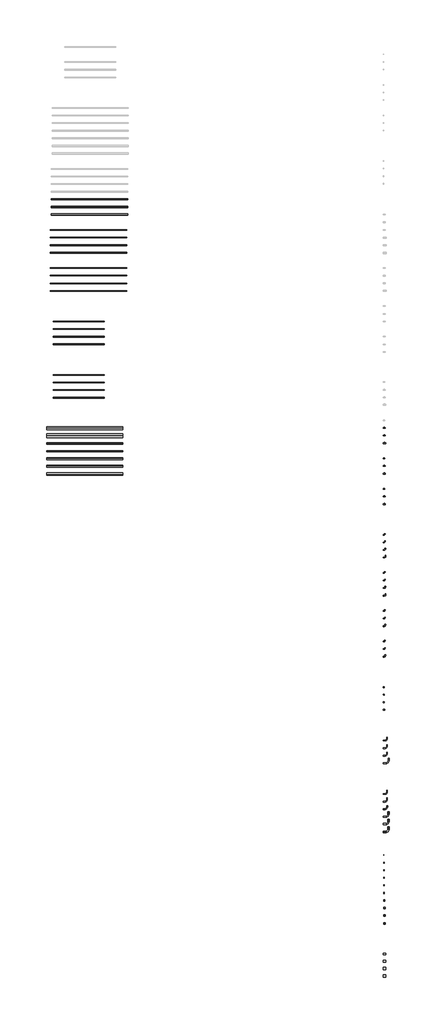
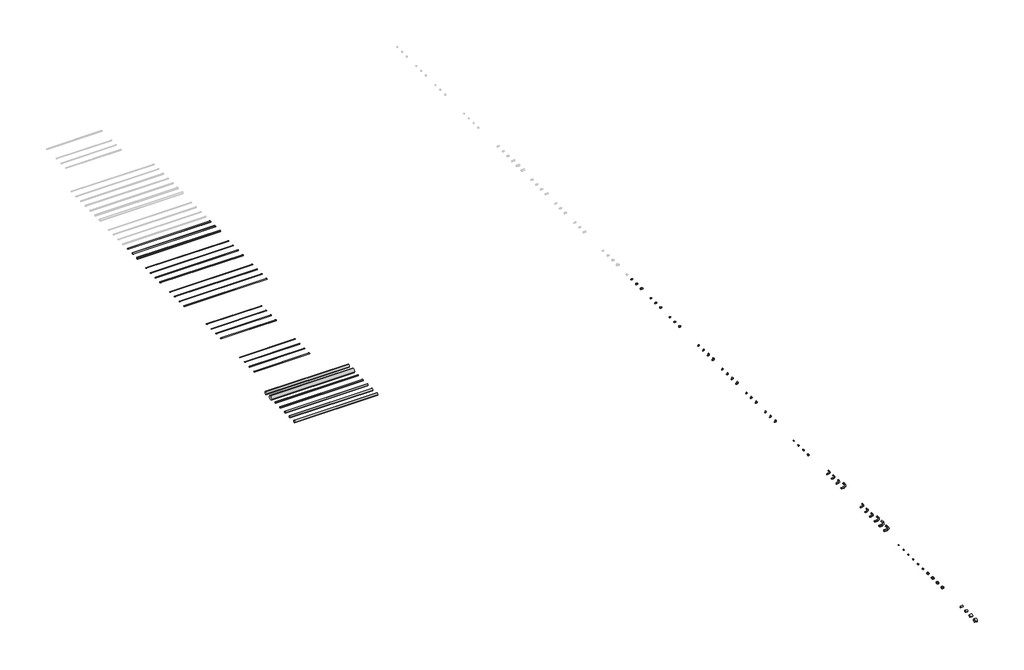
# One storey, part 1 of 3: 51 cable carrier fittings, 26 cable carrier segments.
"""IFC4 building model written with IfcOpenShell, lengths in millimetres."""

from ifc_helpers import new_model, si_unit, point, frame, frame_2d, origin, place, context, project, spatial, circle_curve, trimmed, segment, composite_curve, outline, extrude, transform, mapped, element, save
from components import cable_carrier_fitting_152d4620, cable_carrier_fitting_43ac811c, cable_carrier_fitting_233ad362, cable_carrier_fitting_8a820bfa, cable_carrier_fitting_c9a27e83, cable_carrier_fitting_fce20a62, cable_carrier_fitting_09f9ef3d, cable_carrier_fitting_bbf9297c, cable_carrier_fitting_d21bb2d3, cable_carrier_fitting_9c39eff4, cable_carrier_fitting_4913733f, cable_carrier_fitting_de78d5c7, cable_carrier_fitting_3510dfeb, cable_carrier_fitting_49e6a4dd, cable_carrier_fitting_fd7b985e, cable_carrier_fitting_b6f59f73, cable_carrier_fitting_10f0f2cf, cable_carrier_fitting_4611c645, cable_carrier_fitting_899d4dfe, cable_carrier_fitting_d38100db, cable_carrier_fitting_a519feb8, cable_carrier_fitting_39f01935, cable_carrier_fitting_a0507180, cable_carrier_fitting_edccf83d, cable_carrier_fitting_ab0baff4, cable_carrier_fitting_d0a69e32, cable_carrier_fitting_5630c3e8, cable_carrier_fitting_edf6a9a2, cable_carrier_fitting_8629ba99, cable_carrier_fitting_efb1d8cd, cable_carrier_fitting_1f9cecab, cable_carrier_fitting_2938c938, cable_carrier_fitting_cf892bee, cable_carrier_fitting_da104670, cable_carrier_fitting_de8c5855, cable_carrier_fitting_cd123b29

model = new_model("IFC4")

# Units and contexts
model_context = context("Model", 3, world=origin())
ifc_project = project(units=[si_unit("LENGTHUNIT", "METRE", prefix="MILLI")], contexts=[model_context])

# Site, building, storey
site = spatial("IfcSite", under=ifc_project)
building = spatial("IfcBuilding", under=site)
storey = spatial("IfcBuildingStorey", under=building, Name="Уровень 2", Elevation=4000.0)

# Cable carrier fittings
placement = place(None, origin())
cable_carrier_fitting_shape = cable_carrier_fitting_152d4620(model_context)
element("IfcCableCarrierFitting", 1, ObjectType="Тройник_соед._для_трубы : Тройник соед. для трубы 20мм (5шт) серый", at=placement, inside=storey, context=model_context, shape_type="MappedRepresentation", body=[
    mapped(cable_carrier_fitting_shape, transform((27320.1376507, -9169.340431, 4000.0), x_axis=(1.0, 0.0, 0.0), y_axis=(0.0, 1.0, 0.0), z_axis=(0.0, 0.0, 1.0))),
])
cable_carrier_fitting_2_shape = cable_carrier_fitting_43ac811c(model_context)
element("IfcCableCarrierFitting", 2, ObjectType="Тройник_соед._для_трубы : Тройник соед. для трубы 25мм (5шт) серый", at=placement, inside=storey, context=model_context, shape_type="MappedRepresentation", body=[
    mapped(cable_carrier_fitting_2_shape, transform((27325.1376507, -9466.840431, 4000.0), x_axis=(1.0, 0.0, 0.0), y_axis=(0.0, 1.0, 0.0), z_axis=(0.0, 0.0, 1.0))),
])
cable_carrier_fitting_3_shape = cable_carrier_fitting_233ad362(model_context)
element("IfcCableCarrierFitting", 3, ObjectType="Тройник_соед._для_трубы : Тройник соед. для трубы 32мм (5шт) серый", at=placement, inside=storey, context=model_context, shape_type="MappedRepresentation", body=[
    mapped(cable_carrier_fitting_3_shape, transform((27330.1376507, -9762.840431, 4000.0), x_axis=(1.0, 0.0, 0.0), y_axis=(0.0, 1.0, 0.0), z_axis=(0.0, 0.0, 1.0))),
])
cable_carrier_fitting_4_shape = cable_carrier_fitting_8a820bfa(model_context)
element("IfcCableCarrierFitting", 4, ObjectType="Тройник_соед._для_трубы : Тройник соед. для трубы 16мм (5шт) белый", at=placement, inside=storey, context=model_context, shape_type="MappedRepresentation", body=[
    mapped(cable_carrier_fitting_4_shape, transform((27315.1376507, -11570.340431, 4000.0), x_axis=(1.0, 0.0, 0.0), y_axis=(0.0, 1.0, 0.0), z_axis=(0.0, 0.0, 1.0))),
])
element("IfcCableCarrierFitting", 5, ObjectType="Тройник_соед._для_трубы : Тройник соед. для трубы 20мм (5шт) белый", at=placement, inside=storey, context=model_context, shape_type="MappedRepresentation", body=[
    mapped(cable_carrier_fitting_shape, transform((27320.1376507, -11869.340431, 4000.0), x_axis=(1.0, 0.0, 0.0), y_axis=(0.0, 1.0, 0.0), z_axis=(0.0, 0.0, 1.0))),
])
element("IfcCableCarrierFitting", 6, ObjectType="Тройник_соед._для_трубы : Тройник соед. для трубы 25мм (5шт) белый", at=placement, inside=storey, context=model_context, shape_type="MappedRepresentation", body=[
    mapped(cable_carrier_fitting_2_shape, transform((27325.1376507, -12166.840431, 4000.0), x_axis=(1.0, 0.0, 0.0), y_axis=(0.0, 1.0, 0.0), z_axis=(0.0, 0.0, 1.0))),
])
element("IfcCableCarrierFitting", 7, ObjectType="Тройник_соед._для_трубы : Тройник соед. для трубы 16 мм (5шт) сосна", at=placement, inside=storey, context=model_context, shape_type="MappedRepresentation", body=[
    mapped(cable_carrier_fitting_4_shape, transform((27315.1376507, -10370.340431, 4000.0), x_axis=(1.0, 0.0, 0.0), y_axis=(0.0, 1.0, 0.0), z_axis=(0.0, 0.0, 1.0))),
])
element("IfcCableCarrierFitting", 8, ObjectType="Тройник_соед._для_трубы : Тройник соед. для трубы 20 мм (5шт) сосна", at=placement, inside=storey, context=model_context, shape_type="MappedRepresentation", body=[
    mapped(cable_carrier_fitting_shape, transform((27320.1376507, -10669.340431, 4000.0), x_axis=(1.0, 0.0, 0.0), y_axis=(0.0, 1.0, 0.0), z_axis=(0.0, 0.0, 1.0))),
])
element("IfcCableCarrierFitting", 9, ObjectType="Тройник_соед._для_трубы : Тройник соед. для трубы 25мм (5шт) сосна", at=placement, inside=storey, context=model_context, shape_type="MappedRepresentation", body=[
    mapped(cable_carrier_fitting_2_shape, transform((27325.1376507, -10966.840431, 4000.0), x_axis=(1.0, 0.0, 0.0), y_axis=(0.0, 1.0, 0.0), z_axis=(0.0, 0.0, 1.0))),
])
cable_carrier_fitting_5_shape = cable_carrier_fitting_c9a27e83(model_context)
element("IfcCableCarrierFitting", 10, ObjectType="Угол_90_соед._для_труб : Угол 90 соед. для трубы 16мм (50шт) серый", at=placement, inside=storey, context=model_context, shape_type="MappedRepresentation", body=[
    mapped(cable_carrier_fitting_5_shape, transform((27340.1376507, -13370.340431, 4000.0), x_axis=(1.0, 0.0, 0.0), y_axis=(0.0, 1.0, 0.0), z_axis=(0.0, 0.0, 1.0))),
])
cable_carrier_fitting_6_shape = cable_carrier_fitting_fce20a62(model_context)
element("IfcCableCarrierFitting", 11, ObjectType="Угол_90_соед._для_труб : Угол 90 соед. для трубы 20мм (50шт) серый", at=placement, inside=storey, context=model_context, shape_type="MappedRepresentation", body=[
    mapped(cable_carrier_fitting_6_shape, transform((27350.1376507, -13669.340431, 4000.0), x_axis=(1.0, 0.0, 0.0), y_axis=(0.0, 1.0, 0.0), z_axis=(0.0, 0.0, 1.0))),
])
cable_carrier_fitting_7_shape = cable_carrier_fitting_09f9ef3d(model_context)
element("IfcCableCarrierFitting", 12, ObjectType="Угол_90_соед._для_труб : Угол 90 соед. для трубы 25мм (25шт) серый", at=placement, inside=storey, context=model_context, shape_type="MappedRepresentation", body=[
    mapped(cable_carrier_fitting_7_shape, transform((27360.1376507, -13966.840431, 4000.0), x_axis=(1.0, 0.0, 0.0), y_axis=(0.0, 1.0, 0.0), z_axis=(0.0, 0.0, 1.0))),
])
cable_carrier_fitting_8_shape = cable_carrier_fitting_bbf9297c(model_context)
element("IfcCableCarrierFitting", 13, ObjectType="Угол_90_соед._для_труб : Угол 90 соед. для трубы 32мм (15шт) серый", at=placement, inside=storey, context=model_context, shape_type="MappedRepresentation", body=[
    mapped(cable_carrier_fitting_8_shape, transform((27370.1376507, -14262.840431, 4000.0), x_axis=(1.0, 0.0, 0.0), y_axis=(0.0, 1.0, 0.0), z_axis=(0.0, 0.0, 1.0))),
])
element("IfcCableCarrierFitting", 14, ObjectType="Угол_90_соед._для_труб : Угол 90 соед. для трубы 16мм (5шт) серый", at=placement, inside=storey, context=model_context, shape_type="MappedRepresentation", body=[
    mapped(cable_carrier_fitting_5_shape, transform((27340.1376507, -14870.340431, 4000.0), x_axis=(1.0, 0.0, 0.0), y_axis=(0.0, 1.0, 0.0), z_axis=(0.0, 0.0, 1.0))),
])
element("IfcCableCarrierFitting", 15, ObjectType="Угол_90_соед._для_труб : Угол 90 соед. для трубы 20мм (5шт) серый", at=placement, inside=storey, context=model_context, shape_type="MappedRepresentation", body=[
    mapped(cable_carrier_fitting_6_shape, transform((27350.1376507, -15169.340431, 4000.0), x_axis=(1.0, 0.0, 0.0), y_axis=(0.0, 1.0, 0.0), z_axis=(0.0, 0.0, 1.0))),
])
element("IfcCableCarrierFitting", 16, ObjectType="Угол_90_соед._для_труб : Угол 90 соед. для трубы 25мм (5шт) серый", at=placement, inside=storey, context=model_context, shape_type="MappedRepresentation", body=[
    mapped(cable_carrier_fitting_7_shape, transform((27360.1376507, -15466.840431, 4000.0), x_axis=(1.0, 0.0, 0.0), y_axis=(0.0, 1.0, 0.0), z_axis=(0.0, 0.0, 1.0))),
])
element("IfcCableCarrierFitting", 17, ObjectType="Угол_90_соед._для_труб : Угол 90 соед. для трубы 32мм (5шт) серый", at=placement, inside=storey, context=model_context, shape_type="MappedRepresentation", body=[
    mapped(cable_carrier_fitting_8_shape, transform((27370.1376507, -15762.840431, 4000.0), x_axis=(1.0, 0.0, 0.0), y_axis=(0.0, 1.0, 0.0), z_axis=(0.0, 0.0, 1.0))),
])
element("IfcCableCarrierFitting", 18, ObjectType="Угол_90_соед._для_труб : Угол 90 соед. для трубы 16мм (5шт) сосна", at=placement, inside=storey, context=model_context, shape_type="MappedRepresentation", body=[
    mapped(cable_carrier_fitting_5_shape, transform((27340.1376507, -16370.340431, 4000.0), x_axis=(1.0, 0.0, 0.0), y_axis=(0.0, 1.0, 0.0), z_axis=(0.0, 0.0, 1.0))),
])
element("IfcCableCarrierFitting", 19, ObjectType="Угол_90_соед._для_труб : Угол 90 соед. для трубы 20мм (5шт) сосна", at=placement, inside=storey, context=model_context, shape_type="MappedRepresentation", body=[
    mapped(cable_carrier_fitting_6_shape, transform((27350.1376507, -16669.340431, 4000.0), x_axis=(1.0, 0.0, 0.0), y_axis=(0.0, 1.0, 0.0), z_axis=(0.0, 0.0, 1.0))),
])
element("IfcCableCarrierFitting", 20, ObjectType="Угол_90_соед._для_труб : Угол 90 соед. для трубы 25мм (5шт) сосна", at=placement, inside=storey, context=model_context, shape_type="MappedRepresentation", body=[
    mapped(cable_carrier_fitting_7_shape, transform((27360.1376507, -16966.840431, 4000.0), x_axis=(1.0, 0.0, 0.0), y_axis=(0.0, 1.0, 0.0), z_axis=(0.0, 0.0, 1.0))),
])
element("IfcCableCarrierFitting", 21, ObjectType="Угол_90_соед._для_труб : Угол 90 соед. для трубы 16мм (5шт) белый", at=placement, inside=storey, context=model_context, shape_type="MappedRepresentation", body=[
    mapped(cable_carrier_fitting_5_shape, transform((27340.1376507, -17570.340431, 4000.0), x_axis=(1.0, 0.0, 0.0), y_axis=(0.0, 1.0, 0.0), z_axis=(0.0, 0.0, 1.0))),
])
element("IfcCableCarrierFitting", 22, ObjectType="Угол_90_соед._для_труб : Угол 90 соед. для трубы 20мм (5шт) белый", at=placement, inside=storey, context=model_context, shape_type="MappedRepresentation", body=[
    mapped(cable_carrier_fitting_6_shape, transform((27350.1376507, -17869.340431, 4000.0), x_axis=(1.0, 0.0, 0.0), y_axis=(0.0, 1.0, 0.0), z_axis=(0.0, 0.0, 1.0))),
])
element("IfcCableCarrierFitting", 23, ObjectType="Угол_90_соед._для_труб : Угол 90 соед. для трубы 25мм (5шт) белый", at=placement, inside=storey, context=model_context, shape_type="MappedRepresentation", body=[
    mapped(cable_carrier_fitting_7_shape, transform((27360.1376507, -18166.840431, 4000.0), x_axis=(1.0, 0.0, 0.0), y_axis=(0.0, 1.0, 0.0), z_axis=(0.0, 0.0, 1.0))),
])
cable_carrier_fitting_9_shape = cable_carrier_fitting_d21bb2d3(model_context)
element("IfcCableCarrierFitting", 24, ObjectType="Муфта_гибкая_труба-труба_IP44 : Муфта гибкая труба-труба D16мм", at=placement, inside=storey, context=model_context, shape_type="MappedRepresentation", body=[
    mapped(cable_carrier_fitting_9_shape, transform((27430.1376507, -23564.340431, 4000.0), x_axis=(1.0, 0.0, 0.0), y_axis=(0.0, 1.0, 0.0), z_axis=(0.0, 0.0, 1.0))),
])
cable_carrier_fitting_10_shape = cable_carrier_fitting_9c39eff4(model_context)
element("IfcCableCarrierFitting", 25, ObjectType="Муфта_гибкая_труба-труба_IP44 : Муфта гибкая труба-труба D20мм", at=placement, inside=storey, context=model_context, shape_type="MappedRepresentation", body=[
    mapped(cable_carrier_fitting_10_shape, transform((27430.1376507, -23862.340431, 4000.0), x_axis=(1.0, 0.0, 0.0), y_axis=(0.0, 1.0, 0.0), z_axis=(0.0, 0.0, 1.0))),
])
cable_carrier_fitting_11_shape = cable_carrier_fitting_4913733f(model_context)
element("IfcCableCarrierFitting", 26, ObjectType="Муфта_гибкая_труба-труба_IP44 : Муфта гибкая труба-труба D25мм", at=placement, inside=storey, context=model_context, shape_type="MappedRepresentation", body=[
    mapped(cable_carrier_fitting_11_shape, transform((27430.1376507, -24159.840431, 4000.0), x_axis=(1.0, 0.0, 0.0), y_axis=(0.0, 1.0, 0.0), z_axis=(0.0, 0.0, 1.0))),
])
cable_carrier_fitting_12_shape = cable_carrier_fitting_de78d5c7(model_context)
element("IfcCableCarrierFitting", 27, ObjectType="Муфта_гибкая_труба-труба_IP44 : Муфта гибкая труба-труба D32мм", at=placement, inside=storey, context=model_context, shape_type="MappedRepresentation", body=[
    mapped(cable_carrier_fitting_12_shape, transform((27490.1376507, -24461.840431, 4000.0), x_axis=(1.0, 0.0, 0.0), y_axis=(0.0, 1.0, 0.0), z_axis=(0.0, 0.0, 1.0))),
])
cable_carrier_fitting_13_shape = cable_carrier_fitting_3510dfeb(model_context)
element("IfcCableCarrierFitting", 28, ObjectType="Муфта_гибкая_труба-труба_IP44 : Муфта гибкая труба-труба D40мм", at=placement, inside=storey, context=model_context, shape_type="MappedRepresentation", body=[
    mapped(cable_carrier_fitting_13_shape, transform((27490.1376507, -24752.340431, 4000.0), x_axis=(1.0, 0.0, 0.0), y_axis=(0.0, 1.0, 0.0), z_axis=(0.0, 0.0, 1.0))),
])
cable_carrier_fitting_14_shape = cable_carrier_fitting_49e6a4dd(model_context)
element("IfcCableCarrierFitting", 29, ObjectType="Муфта_гибкая_труба-труба_IP44 : Муфта гибкая труба-труба D50мм", at=placement, inside=storey, context=model_context, shape_type="MappedRepresentation", body=[
    mapped(cable_carrier_fitting_14_shape, transform((27490.1376507, -25053.340431, 4000.0), x_axis=(1.0, 0.0, 0.0), y_axis=(0.0, 1.0, 0.0), z_axis=(0.0, 0.0, 1.0))),
])
cable_carrier_fitting_15_shape = cable_carrier_fitting_fd7b985e(model_context)
element("IfcCableCarrierFitting", 30, ObjectType="Муфта_вводная_для_гофротрубы : Муфта вводная для гофротрубы 32мм", at=placement, inside=storey, context=model_context, shape_type="MappedRepresentation", body=[
    mapped(cable_carrier_fitting_15_shape, transform((27311.0471371, -20230.340431, 4000.0), x_axis=(1.0, 0.0, 0.0), y_axis=(0.0, 1.0, 0.0), z_axis=(0.0, 0.0, 1.0))),
])
cable_carrier_fitting_16_shape = cable_carrier_fitting_b6f59f73(model_context)
element("IfcCableCarrierFitting", 31, ObjectType="Муфта_вводная_для_гофротрубы : Муфта вводная для гофротрубы 25мм", at=placement, inside=storey, context=model_context, shape_type="MappedRepresentation", body=[
    mapped(cable_carrier_fitting_16_shape, transform((27307.5471371, -19933.340431, 4000.0), x_axis=(1.0, 0.0, 0.0), y_axis=(0.0, 1.0, 0.0), z_axis=(0.0, 0.0, 1.0))),
])
cable_carrier_fitting_17_shape = cable_carrier_fitting_10f0f2cf(model_context)
element("IfcCableCarrierFitting", 32, ObjectType="Муфта_вводная_для_гофротрубы : Муфта вводная для гофротрубы 20мм", at=placement, inside=storey, context=model_context, shape_type="MappedRepresentation", body=[
    mapped(cable_carrier_fitting_17_shape, transform((27305.0471371, -19634.340431, 4000.0), x_axis=(1.0, 0.0, 0.0), y_axis=(0.0, 1.0, 0.0), z_axis=(0.0, 0.0, 1.0))),
])
cable_carrier_fitting_18_shape = cable_carrier_fitting_4611c645(model_context)
element("IfcCableCarrierFitting", 33, ObjectType="Муфта_вводная_для_гофротрубы : Муфта вводная для гофротрубы 16мм", at=placement, inside=storey, context=model_context, shape_type="MappedRepresentation", body=[
    mapped(cable_carrier_fitting_18_shape, transform((27302.5471371, -19340.340431, 4000.0), x_axis=(1.0, 0.0, 0.0), y_axis=(0.0, 1.0, 0.0), z_axis=(0.0, 0.0, 1.0))),
])
cable_carrier_fitting_19_shape = cable_carrier_fitting_899d4dfe(model_context)
element("IfcCableCarrierFitting", 34, ObjectType="Сальник_PGL_D_11-48_IP54 : Сальник PG 11 диаметр проводника 5-10мм IP54", at=placement, inside=storey, context=model_context, shape_type="MappedRepresentation", body=[
    mapped(cable_carrier_fitting_19_shape, transform((27302.5471371, -26546.340431, 4000.0), x_axis=(1.0, 0.0, 0.0), y_axis=(0.0, 1.0, 0.0), z_axis=(0.0, 0.0, 1.0))),
])
cable_carrier_fitting_20_shape = cable_carrier_fitting_d38100db(model_context)
element("IfcCableCarrierFitting", 35, ObjectType="Сальник_PGL_D_11-48_IP54 : Сальник PG 13,5 диаметр проводника 7-11мм IP54", at=placement, inside=storey, context=model_context, shape_type="MappedRepresentation", body=[
    mapped(cable_carrier_fitting_20_shape, transform((27304.5471371, -26845.340431, 4000.0), x_axis=(1.0, 0.0, 0.0), y_axis=(0.0, 1.0, 0.0), z_axis=(0.0, 0.0, 1.0))),
])
cable_carrier_fitting_21_shape = cable_carrier_fitting_a519feb8(model_context)
element("IfcCableCarrierFitting", 36, ObjectType="Сальник_PGL_D_11-48_IP54 : Сальник PG 16 диаметр проводника 10-14мм IP54", at=placement, inside=storey, context=model_context, shape_type="MappedRepresentation", body=[
    mapped(cable_carrier_fitting_21_shape, transform((27305.5471371, -27140.340431, 4000.0), x_axis=(1.0, 0.0, 0.0), y_axis=(0.0, 1.0, 0.0), z_axis=(0.0, 0.0, 1.0))),
])
cable_carrier_fitting_22_shape = cable_carrier_fitting_39f01935(model_context)
element("IfcCableCarrierFitting", 37, ObjectType="Сальник_PGL_D_11-48_IP54 : Сальник PG 21 диаметр проводника 13-18мм IP54", at=placement, inside=storey, context=model_context, shape_type="MappedRepresentation", body=[
    mapped(cable_carrier_fitting_22_shape, transform((27308.5471371, -27435.340431, 4000.0), x_axis=(1.0, 0.0, 0.0), y_axis=(0.0, 1.0, 0.0), z_axis=(0.0, 0.0, 1.0))),
])
cable_carrier_fitting_23_shape = cable_carrier_fitting_a0507180(model_context)
element("IfcCableCarrierFitting", 38, ObjectType="Сальник_PGL_D_11-48_IP54 : Сальник PG 29 диаметр проводника 18-25мм IP54", at=placement, inside=storey, context=model_context, shape_type="MappedRepresentation", body=[
    mapped(cable_carrier_fitting_23_shape, transform((27320.5471371, -27724.340431, 4000.0), x_axis=(1.0, 0.0, 0.0), y_axis=(0.0, 1.0, 0.0), z_axis=(0.0, 0.0, 1.0))),
])
cable_carrier_fitting_24_shape = cable_carrier_fitting_edccf83d(model_context)
element("IfcCableCarrierFitting", 39, ObjectType="Сальник_PGL_D_11-48_IP54 : Сальник PG 36 диаметр проводника 22-32мм IP54", at=placement, inside=storey, context=model_context, shape_type="MappedRepresentation", body=[
    mapped(cable_carrier_fitting_24_shape, transform((27323.5471371, -28017.340431, 4000.0), x_axis=(1.0, 0.0, 0.0), y_axis=(0.0, 1.0, 0.0), z_axis=(0.0, 0.0, 1.0))),
])
cable_carrier_fitting_25_shape = cable_carrier_fitting_ab0baff4(model_context)
element("IfcCableCarrierFitting", 40, ObjectType="Сальник_PGL_D_11-48_IP54 : Сальник PG 42 диаметр проводника 32-38мм IP54", at=placement, inside=storey, context=model_context, shape_type="MappedRepresentation", body=[
    mapped(cable_carrier_fitting_25_shape, transform((27324.5471371, -28317.340431, 4000.0), x_axis=(1.0, 0.0, 0.0), y_axis=(0.0, 1.0, 0.0), z_axis=(0.0, 0.0, 1.0))),
])
cable_carrier_fitting_26_shape = cable_carrier_fitting_d0a69e32(model_context)
element("IfcCableCarrierFitting", 41, ObjectType="Сальник_PGL_D_11-48_IP54 : Сальник PG 48 диаметр проводника 39-43мм IP54", at=placement, inside=storey, context=model_context, shape_type="MappedRepresentation", body=[
    mapped(cable_carrier_fitting_26_shape, transform((27324.5471371, -28620.2385747, 4000.0), x_axis=(1.0, 0.0, 0.0), y_axis=(0.0, 1.0, 0.0), z_axis=(0.0, 0.0, 1.0))),
])
cable_carrier_fitting_27_shape = cable_carrier_fitting_5630c3e8(model_context)
element("IfcCableCarrierFitting", 42, ObjectType="Сальник_PGL_D_11-48_IP54 : Сальник PG 7 диаметр проводника 3,5-6мм IP54", at=placement, inside=storey, context=model_context, shape_type="MappedRepresentation", body=[
    mapped(cable_carrier_fitting_27_shape, transform((27302.5471371, -25946.340431, 4000.0), x_axis=(1.0, 0.0, 0.0), y_axis=(0.0, 1.0, 0.0), z_axis=(0.0, 0.0, 1.0))),
])
cable_carrier_fitting_28_shape = cable_carrier_fitting_edf6a9a2(model_context)
element("IfcCableCarrierFitting", 43, ObjectType="Сальник_PGL_D_11-48_IP54 : Сальник PG 9 диаметр проводника 4-8мм IP54", at=placement, inside=storey, context=model_context, shape_type="MappedRepresentation", body=[
    mapped(cable_carrier_fitting_28_shape, transform((27302.5471371, -26246.340431, 4000.0), x_axis=(1.0, 0.0, 0.0), y_axis=(0.0, 1.0, 0.0), z_axis=(0.0, 0.0, 1.0))),
])
cable_carrier_fitting_29_shape = cable_carrier_fitting_8629ba99(model_context)
element("IfcCableCarrierFitting", 44, ObjectType="Муфта_гибкая_труба-коробка_IP44 : Муфта гибкая труба-коробка D16мм", at=placement, inside=storey, context=model_context, shape_type="MappedRepresentation", body=[
    mapped(cable_carrier_fitting_29_shape, transform((27430.1376507, -21464.340431, 4000.0), x_axis=(1.0, 0.0, 0.0), y_axis=(0.0, 1.0, 0.0), z_axis=(0.0, 0.0, 1.0))),
])
cable_carrier_fitting_30_shape = cable_carrier_fitting_efb1d8cd(model_context)
element("IfcCableCarrierFitting", 45, ObjectType="Муфта_гибкая_труба-коробка_IP44 : Муфта гибкая труба-коробка D20мм", at=placement, inside=storey, context=model_context, shape_type="MappedRepresentation", body=[
    mapped(cable_carrier_fitting_30_shape, transform((27430.1376507, -21762.340431, 4000.0), x_axis=(1.0, 0.0, 0.0), y_axis=(0.0, 1.0, 0.0), z_axis=(0.0, 0.0, 1.0))),
])
cable_carrier_fitting_31_shape = cable_carrier_fitting_1f9cecab(model_context)
element("IfcCableCarrierFitting", 46, ObjectType="Муфта_гибкая_труба-коробка_IP44 : Муфта гибкая труба-коробка D25мм", at=placement, inside=storey, context=model_context, shape_type="MappedRepresentation", body=[
    mapped(cable_carrier_fitting_31_shape, transform((27430.1376507, -22059.840431, 4000.0), x_axis=(1.0, 0.0, 0.0), y_axis=(0.0, 1.0, 0.0), z_axis=(0.0, 0.0, 1.0))),
])
cable_carrier_fitting_32_shape = cable_carrier_fitting_2938c938(model_context)
element("IfcCableCarrierFitting", 47, ObjectType="Муфта_гибкая_труба-коробка_IP44 : Муфта гибкая труба-коробка D32мм", at=placement, inside=storey, context=model_context, shape_type="MappedRepresentation", body=[
    mapped(cable_carrier_fitting_32_shape, transform((27490.1376507, -22356.340431, 4000.0), x_axis=(1.0, 0.0, 0.0), y_axis=(0.0, 1.0, 0.0), z_axis=(0.0, 0.0, 1.0))),
])
cable_carrier_fitting_33_shape = cable_carrier_fitting_cf892bee(model_context)
element("IfcCableCarrierFitting", 48, ObjectType="Муфта_соединительная_для_двустенной_трубы : Муфта соединительная для двухстенной трубы D50мм", at=placement, inside=storey, context=model_context, shape_type="MappedRepresentation", body=[
    mapped(cable_carrier_fitting_33_shape, transform((27330.1376507, -29853.340431, 4000.0), x_axis=(1.0, 0.0, 0.0), y_axis=(0.0, 1.0, 0.0), z_axis=(0.0, 0.0, 1.0))),
])
cable_carrier_fitting_34_shape = cable_carrier_fitting_da104670(model_context)
element("IfcCableCarrierFitting", 49, ObjectType="Муфта_соединительная_для_двустенной_трубы : Муфта соединительная для двухстенной трубы D63мм", at=placement, inside=storey, context=model_context, shape_type="MappedRepresentation", body=[
    mapped(cable_carrier_fitting_34_shape, transform((27330.1376507, -30146.840431, 4000.0), x_axis=(1.0, 0.0, 0.0), y_axis=(0.0, 1.0, 0.0), z_axis=(0.0, 0.0, 1.0))),
])
cable_carrier_fitting_35_shape = cable_carrier_fitting_de8c5855(model_context)
element("IfcCableCarrierFitting", 50, ObjectType="Муфта_соединительная_для_двустенной_трубы : Муфта соединительная для двухстенной трубы D90мм", at=placement, inside=storey, context=model_context, shape_type="MappedRepresentation", body=[
    mapped(cable_carrier_fitting_35_shape, transform((27330.1376507, -30433.340431, 4000.0), x_axis=(1.0, 0.0, 0.0), y_axis=(0.0, 1.0, 0.0), z_axis=(0.0, 0.0, 1.0))),
])
cable_carrier_fitting_36_shape = cable_carrier_fitting_cd123b29(model_context)
element("IfcCableCarrierFitting", 51, ObjectType="Муфта_соединительная_для_двустенной_трубы : Муфта соединительная для двухстенной трубы D110мм", at=placement, inside=storey, context=model_context, shape_type="MappedRepresentation", body=[
    mapped(cable_carrier_fitting_36_shape, transform((27330.1376507, -30723.340431, 4000.0), x_axis=(1.0, 0.0, 0.0), y_axis=(0.0, 1.0, 0.0), z_axis=(0.0, 0.0, 1.0))),
])

# Cable carrier segments
element("IfcCableCarrierSegment", 52, ObjectType="По умолчанию", at=placement, inside=storey, context=model_context, shape_type="SweptSolid", body=[
    extrude(outline(composite_curve([segment(trimmed(circle_curve(frame_2d((-180.340431, 4298.3533272)), 20.0), [point((-200.340431, 4298.3533272))], [point((-180.340431, 4318.3533272))], False, "CARTESIAN"), True, "CONTINUOUS"), segment(trimmed(circle_curve(frame_2d((-180.340431, 4298.3533272)), 20.0), [point((-180.340431, 4318.3533272))], [point((-160.340431, 4298.3533272))], False, "CARTESIAN"), True, "CONTINUOUS"), segment(trimmed(circle_curve(frame_2d((-180.340431, 4298.3533272)), 20.0), [point((-160.340431, 4298.3533272))], [point((-180.340431, 4278.3533272))], False, "CARTESIAN"), True, "CONTINUOUS"), segment(trimmed(circle_curve(frame_2d((-180.340431, 4298.3533272)), 20.0), [point((-180.340431, 4278.3533272))], [point((-200.340431, 4298.3533272))], False, "CARTESIAN"), True, "CONTINUOUS")], self_intersect=False)), frame((14230.7195148, 0.0, 0.0), z_axis=(1.0, 0.0, 0.0), x_axis=(0.0, 1.0, 0.0)), (0.0, 0.0, 1.0), 3000.0),
])
element("IfcCableCarrierSegment", 53, ObjectType="По умолчанию", at=placement, inside=storey, context=model_context, shape_type="SweptSolid", body=[
    extrude(outline(composite_curve([segment(trimmed(circle_curve(frame_2d((-480.340431, 4298.3533272)), 25.0), [point((-505.340431, 4298.3533272))], [point((-480.340431, 4323.3533272))], False, "CARTESIAN"), True, "CONTINUOUS"), segment(trimmed(circle_curve(frame_2d((-480.340431, 4298.3533272)), 25.0), [point((-480.340431, 4323.3533272))], [point((-455.340431, 4298.3533272))], False, "CARTESIAN"), True, "CONTINUOUS"), segment(trimmed(circle_curve(frame_2d((-480.340431, 4298.3533272)), 25.0), [point((-455.340431, 4298.3533272))], [point((-480.340431, 4273.3533272))], False, "CARTESIAN"), True, "CONTINUOUS"), segment(trimmed(circle_curve(frame_2d((-480.340431, 4298.3533272)), 25.0), [point((-480.340431, 4273.3533272))], [point((-505.340431, 4298.3533272))], False, "CARTESIAN"), True, "CONTINUOUS")], self_intersect=False)), frame((14230.7195148, 0.0, 0.0), z_axis=(1.0, 0.0, 0.0), x_axis=(0.0, 1.0, 0.0)), (0.0, 0.0, 1.0), 3000.0),
])
element("IfcCableCarrierSegment", 54, ObjectType="По умолчанию", at=placement, inside=storey, context=model_context, shape_type="SweptSolid", body=[
    extrude(outline(composite_curve([segment(trimmed(circle_curve(frame_2d((-780.340431, 4298.3533272)), 31.5), [point((-811.840431, 4298.3533272))], [point((-780.340431, 4329.8533272))], False, "CARTESIAN"), True, "CONTINUOUS"), segment(trimmed(circle_curve(frame_2d((-780.340431, 4298.3533272)), 31.5), [point((-780.340431, 4329.8533272))], [point((-748.840431, 4298.3533272))], False, "CARTESIAN"), True, "CONTINUOUS"), segment(trimmed(circle_curve(frame_2d((-780.340431, 4298.3533272)), 31.5), [point((-748.840431, 4298.3533272))], [point((-780.340431, 4266.8533272))], False, "CARTESIAN"), True, "CONTINUOUS"), segment(trimmed(circle_curve(frame_2d((-780.340431, 4298.3533272)), 31.5), [point((-780.340431, 4266.8533272))], [point((-811.840431, 4298.3533272))], False, "CARTESIAN"), True, "CONTINUOUS")], self_intersect=False)), frame((14230.7195148, 0.0, 0.0), z_axis=(1.0, 0.0, 0.0), x_axis=(0.0, 1.0, 0.0)), (0.0, 0.0, 1.0), 3000.0),
])
element("IfcCableCarrierSegment", 55, ObjectType="По умолчанию", at=placement, inside=storey, context=model_context, shape_type="SweptSolid", body=[
    extrude(outline(composite_curve([segment(trimmed(circle_curve(frame_2d((-1380.340431, 4298.3533272)), 8.965), [point((-1389.305431, 4298.3533272))], [point((-1380.340431, 4307.3183272))], False, "CARTESIAN"), True, "CONTINUOUS"), segment(trimmed(circle_curve(frame_2d((-1380.340431, 4298.3533272)), 8.965), [point((-1380.340431, 4307.3183272))], [point((-1371.375431, 4298.3533272))], False, "CARTESIAN"), True, "CONTINUOUS"), segment(trimmed(circle_curve(frame_2d((-1380.340431, 4298.3533272)), 8.965), [point((-1371.375431, 4298.3533272))], [point((-1380.340431, 4289.3883272))], False, "CARTESIAN"), True, "CONTINUOUS"), segment(trimmed(circle_curve(frame_2d((-1380.340431, 4298.3533272)), 8.965), [point((-1380.340431, 4289.3883272))], [point((-1389.305431, 4298.3533272))], False, "CARTESIAN"), True, "CONTINUOUS")], self_intersect=False)), frame((14191.9799574, 0.0, 0.0), z_axis=(1.0, 0.0, 0.0), x_axis=(0.0, 1.0, 0.0)), (0.0, 0.0, 1.0), 3000.0),
])
element("IfcCableCarrierSegment", 56, ObjectType="По умолчанию", at=placement, inside=storey, context=model_context, shape_type="SweptSolid", body=[
    extrude(outline(composite_curve([segment(trimmed(circle_curve(frame_2d((-1680.340431, 4298.3533272)), 10.5), [point((-1690.840431, 4298.3533272))], [point((-1680.340431, 4308.8533272))], False, "CARTESIAN"), True, "CONTINUOUS"), segment(trimmed(circle_curve(frame_2d((-1680.340431, 4298.3533272)), 10.5), [point((-1680.340431, 4308.8533272))], [point((-1669.840431, 4298.3533272))], False, "CARTESIAN"), True, "CONTINUOUS"), segment(trimmed(circle_curve(frame_2d((-1680.340431, 4298.3533272)), 10.5), [point((-1669.840431, 4298.3533272))], [point((-1680.340431, 4287.8533272))], False, "CARTESIAN"), True, "CONTINUOUS"), segment(trimmed(circle_curve(frame_2d((-1680.340431, 4298.3533272)), 10.5), [point((-1680.340431, 4287.8533272))], [point((-1690.840431, 4298.3533272))], False, "CARTESIAN"), True, "CONTINUOUS")], self_intersect=False)), frame((14191.9799574, 0.0, 0.0), z_axis=(1.0, 0.0, 0.0), x_axis=(0.0, 1.0, 0.0)), (0.0, 0.0, 1.0), 3000.0),
])
element("IfcCableCarrierSegment", 57, ObjectType="По умолчанию", at=placement, inside=storey, context=model_context, shape_type="SweptSolid", body=[
    extrude(outline(composite_curve([segment(trimmed(circle_curve(frame_2d((-1980.340431, 4298.3533272)), 12.5), [point((-1992.840431, 4298.3533272))], [point((-1980.340431, 4310.8533272))], False, "CARTESIAN"), True, "CONTINUOUS"), segment(trimmed(circle_curve(frame_2d((-1980.340431, 4298.3533272)), 12.5), [point((-1980.340431, 4310.8533272))], [point((-1967.840431, 4298.3533272))], False, "CARTESIAN"), True, "CONTINUOUS"), segment(trimmed(circle_curve(frame_2d((-1980.340431, 4298.3533272)), 12.5), [point((-1967.840431, 4298.3533272))], [point((-1980.340431, 4285.8533272))], False, "CARTESIAN"), True, "CONTINUOUS"), segment(trimmed(circle_curve(frame_2d((-1980.340431, 4298.3533272)), 12.5), [point((-1980.340431, 4285.8533272))], [point((-1992.840431, 4298.3533272))], False, "CARTESIAN"), True, "CONTINUOUS")], self_intersect=False)), frame((14191.9799574, 0.0, 0.0), z_axis=(1.0, 0.0, 0.0), x_axis=(0.0, 1.0, 0.0)), (0.0, 0.0, 1.0), 3000.0),
])
element("IfcCableCarrierSegment", 58, ObjectType="По умолчанию", at=placement, inside=storey, context=model_context, shape_type="SweptSolid", body=[
    extrude(outline(composite_curve([segment(trimmed(circle_curve(frame_2d((-2280.340431, 4298.3533272)), 17.5), [point((-2297.840431, 4298.3533272))], [point((-2280.340431, 4315.8533272))], False, "CARTESIAN"), True, "CONTINUOUS"), segment(trimmed(circle_curve(frame_2d((-2280.340431, 4298.3533272)), 17.5), [point((-2280.340431, 4315.8533272))], [point((-2262.840431, 4298.3533272))], False, "CARTESIAN"), True, "CONTINUOUS"), segment(trimmed(circle_curve(frame_2d((-2280.340431, 4298.3533272)), 17.5), [point((-2262.840431, 4298.3533272))], [point((-2280.340431, 4280.8533272))], False, "CARTESIAN"), True, "CONTINUOUS"), segment(trimmed(circle_curve(frame_2d((-2280.340431, 4298.3533272)), 17.5), [point((-2280.340431, 4280.8533272))], [point((-2297.840431, 4298.3533272))], False, "CARTESIAN"), True, "CONTINUOUS")], self_intersect=False)), frame((14191.9799574, 0.0, 0.0), z_axis=(1.0, 0.0, 0.0), x_axis=(0.0, 1.0, 0.0)), (0.0, 0.0, 1.0), 3000.0),
])
element("IfcCableCarrierSegment", 59, ObjectType="По умолчанию", at=placement, inside=storey, context=model_context, shape_type="SweptSolid", body=[
    extrude(outline(composite_curve([segment(trimmed(circle_curve(frame_2d((-2880.340431, 4298.3533272)), 8.965), [point((-2889.305431, 4298.3533272))], [point((-2880.340431, 4307.3183272))], False, "CARTESIAN"), True, "CONTINUOUS"), segment(trimmed(circle_curve(frame_2d((-2880.340431, 4298.3533272)), 8.965), [point((-2880.340431, 4307.3183272))], [point((-2871.375431, 4298.3533272))], False, "CARTESIAN"), True, "CONTINUOUS"), segment(trimmed(circle_curve(frame_2d((-2880.340431, 4298.3533272)), 8.965), [point((-2871.375431, 4298.3533272))], [point((-2880.340431, 4289.3883272))], False, "CARTESIAN"), True, "CONTINUOUS"), segment(trimmed(circle_curve(frame_2d((-2880.340431, 4298.3533272)), 8.965), [point((-2880.340431, 4289.3883272))], [point((-2889.305431, 4298.3533272))], False, "CARTESIAN"), True, "CONTINUOUS")], self_intersect=False)), frame((14191.9799574, 0.0, 0.0), z_axis=(1.0, 0.0, 0.0), x_axis=(0.0, 1.0, 0.0)), (0.0, 0.0, 1.0), 3000.0),
])
element("IfcCableCarrierSegment", 60, ObjectType="По умолчанию", at=placement, inside=storey, context=model_context, shape_type="SweptSolid", body=[
    extrude(outline(composite_curve([segment(trimmed(circle_curve(frame_2d((-3180.340431, 4298.3533272)), 10.0), [point((-3190.340431, 4298.3533272))], [point((-3180.340431, 4308.3533272))], False, "CARTESIAN"), True, "CONTINUOUS"), segment(trimmed(circle_curve(frame_2d((-3180.340431, 4298.3533272)), 10.0), [point((-3180.340431, 4308.3533272))], [point((-3170.340431, 4298.3533272))], False, "CARTESIAN"), True, "CONTINUOUS"), segment(trimmed(circle_curve(frame_2d((-3180.340431, 4298.3533272)), 10.0), [point((-3170.340431, 4298.3533272))], [point((-3180.340431, 4288.3533272))], False, "CARTESIAN"), True, "CONTINUOUS"), segment(trimmed(circle_curve(frame_2d((-3180.340431, 4298.3533272)), 10.0), [point((-3180.340431, 4288.3533272))], [point((-3190.340431, 4298.3533272))], False, "CARTESIAN"), True, "CONTINUOUS")], self_intersect=False)), frame((14191.9799574, 0.0, 0.0), z_axis=(1.0, 0.0, 0.0), x_axis=(0.0, 1.0, 0.0)), (0.0, 0.0, 1.0), 3000.0),
])
element("IfcCableCarrierSegment", 61, ObjectType="По умолчанию", at=placement, inside=storey, context=model_context, shape_type="SweptSolid", body=[
    extrude(outline(composite_curve([segment(trimmed(circle_curve(frame_2d((-3480.340431, 4298.3533272)), 12.5), [point((-3492.840431, 4298.3533272))], [point((-3480.340431, 4310.8533272))], False, "CARTESIAN"), True, "CONTINUOUS"), segment(trimmed(circle_curve(frame_2d((-3480.340431, 4298.3533272)), 12.5), [point((-3480.340431, 4310.8533272))], [point((-3467.840431, 4298.3533272))], False, "CARTESIAN"), True, "CONTINUOUS"), segment(trimmed(circle_curve(frame_2d((-3480.340431, 4298.3533272)), 12.5), [point((-3467.840431, 4298.3533272))], [point((-3480.340431, 4285.8533272))], False, "CARTESIAN"), True, "CONTINUOUS"), segment(trimmed(circle_curve(frame_2d((-3480.340431, 4298.3533272)), 12.5), [point((-3480.340431, 4285.8533272))], [point((-3492.840431, 4298.3533272))], False, "CARTESIAN"), True, "CONTINUOUS")], self_intersect=False)), frame((14191.9799574, 0.0, 0.0), z_axis=(1.0, 0.0, 0.0), x_axis=(0.0, 1.0, 0.0)), (0.0, 0.0, 1.0), 3000.0),
])
element("IfcCableCarrierSegment", 62, ObjectType="По умолчанию", at=placement, inside=storey, context=model_context, shape_type="SweptSolid", body=[
    extrude(outline(composite_curve([segment(trimmed(circle_curve(frame_2d((-3780.340431, 4298.3533272)), 16.0), [point((-3796.340431, 4298.3533272))], [point((-3780.340431, 4314.3533272))], False, "CARTESIAN"), True, "CONTINUOUS"), segment(trimmed(circle_curve(frame_2d((-3780.340431, 4298.3533272)), 16.0), [point((-3780.340431, 4314.3533272))], [point((-3764.340431, 4298.3533272))], False, "CARTESIAN"), True, "CONTINUOUS"), segment(trimmed(circle_curve(frame_2d((-3780.340431, 4298.3533272)), 16.0), [point((-3764.340431, 4298.3533272))], [point((-3780.340431, 4282.3533272))], False, "CARTESIAN"), True, "CONTINUOUS"), segment(trimmed(circle_curve(frame_2d((-3780.340431, 4298.3533272)), 16.0), [point((-3780.340431, 4282.3533272))], [point((-3796.340431, 4298.3533272))], False, "CARTESIAN"), True, "CONTINUOUS")], self_intersect=False)), frame((14191.9799574, 0.0, 0.0), z_axis=(1.0, 0.0, 0.0), x_axis=(0.0, 1.0, 0.0)), (0.0, 0.0, 1.0), 3000.0),
])
element("IfcCableCarrierSegment", 63, ObjectType="По умолчанию", at=placement, inside=storey, context=model_context, shape_type="SweptSolid", body=[
    extrude(outline(composite_curve([segment(trimmed(circle_curve(frame_2d((-4980.340431, 4298.3533272)), 8.965), [point((-4989.305431, 4298.3533272))], [point((-4980.340431, 4307.3183272))], False, "CARTESIAN"), True, "CONTINUOUS"), segment(trimmed(circle_curve(frame_2d((-4980.340431, 4298.3533272)), 8.965), [point((-4980.340431, 4307.3183272))], [point((-4971.375431, 4298.3533272))], False, "CARTESIAN"), True, "CONTINUOUS"), segment(trimmed(circle_curve(frame_2d((-4980.340431, 4298.3533272)), 8.965), [point((-4971.375431, 4298.3533272))], [point((-4980.340431, 4289.3883272))], False, "CARTESIAN"), True, "CONTINUOUS"), segment(trimmed(circle_curve(frame_2d((-4980.340431, 4298.3533272)), 8.965), [point((-4980.340431, 4289.3883272))], [point((-4989.305431, 4298.3533272))], False, "CARTESIAN"), True, "CONTINUOUS")], self_intersect=False)), frame((14311.9768995, 0.0, 0.0), z_axis=(1.0, 0.0, 0.0), x_axis=(0.0, 1.0, 0.0)), (0.0, 0.0, 1.0), 2000.0),
])
element("IfcCableCarrierSegment", 64, ObjectType="По умолчанию", at=placement, inside=storey, context=model_context, shape_type="SweptSolid", body=[
    extrude(outline(composite_curve([segment(trimmed(circle_curve(frame_2d((-5280.340431, 4298.3533272)), 10.0), [point((-5290.340431, 4298.3533272))], [point((-5280.340431, 4308.3533272))], False, "CARTESIAN"), True, "CONTINUOUS"), segment(trimmed(circle_curve(frame_2d((-5280.340431, 4298.3533272)), 10.0), [point((-5280.340431, 4308.3533272))], [point((-5270.340431, 4298.3533272))], False, "CARTESIAN"), True, "CONTINUOUS"), segment(trimmed(circle_curve(frame_2d((-5280.340431, 4298.3533272)), 10.0), [point((-5270.340431, 4298.3533272))], [point((-5280.340431, 4288.3533272))], False, "CARTESIAN"), True, "CONTINUOUS"), segment(trimmed(circle_curve(frame_2d((-5280.340431, 4298.3533272)), 10.0), [point((-5280.340431, 4288.3533272))], [point((-5290.340431, 4298.3533272))], False, "CARTESIAN"), True, "CONTINUOUS")], self_intersect=False)), frame((14311.9768995, 0.0, 0.0), z_axis=(1.0, 0.0, 0.0), x_axis=(0.0, 1.0, 0.0)), (0.0, 0.0, 1.0), 2000.0),
])
element("IfcCableCarrierSegment", 65, ObjectType="По умолчанию", at=placement, inside=storey, context=model_context, shape_type="SweptSolid", body=[
    extrude(outline(composite_curve([segment(trimmed(circle_curve(frame_2d((-5580.340431, 4298.3533272)), 12.5), [point((-5592.840431, 4298.3533272))], [point((-5580.340431, 4310.8533272))], False, "CARTESIAN"), True, "CONTINUOUS"), segment(trimmed(circle_curve(frame_2d((-5580.340431, 4298.3533272)), 12.5), [point((-5580.340431, 4310.8533272))], [point((-5567.840431, 4298.3533272))], False, "CARTESIAN"), True, "CONTINUOUS"), segment(trimmed(circle_curve(frame_2d((-5580.340431, 4298.3533272)), 12.5), [point((-5567.840431, 4298.3533272))], [point((-5580.340431, 4285.8533272))], False, "CARTESIAN"), True, "CONTINUOUS"), segment(trimmed(circle_curve(frame_2d((-5580.340431, 4298.3533272)), 12.5), [point((-5580.340431, 4285.8533272))], [point((-5592.840431, 4298.3533272))], False, "CARTESIAN"), True, "CONTINUOUS")], self_intersect=False)), frame((14311.9768995, 0.0, 0.0), z_axis=(1.0, 0.0, 0.0), x_axis=(0.0, 1.0, 0.0)), (0.0, 0.0, 1.0), 2000.0),
])
element("IfcCableCarrierSegment", 66, ObjectType="По умолчанию", at=placement, inside=storey, context=model_context, shape_type="SweptSolid", body=[
    extrude(outline(composite_curve([segment(trimmed(circle_curve(frame_2d((-5880.340431, 4298.3533272)), 16.0), [point((-5896.340431, 4298.3533272))], [point((-5880.340431, 4314.3533272))], False, "CARTESIAN"), True, "CONTINUOUS"), segment(trimmed(circle_curve(frame_2d((-5880.340431, 4298.3533272)), 16.0), [point((-5880.340431, 4314.3533272))], [point((-5864.340431, 4298.3533272))], False, "CARTESIAN"), True, "CONTINUOUS"), segment(trimmed(circle_curve(frame_2d((-5880.340431, 4298.3533272)), 16.0), [point((-5864.340431, 4298.3533272))], [point((-5880.340431, 4282.3533272))], False, "CARTESIAN"), True, "CONTINUOUS"), segment(trimmed(circle_curve(frame_2d((-5880.340431, 4298.3533272)), 16.0), [point((-5880.340431, 4282.3533272))], [point((-5896.340431, 4298.3533272))], False, "CARTESIAN"), True, "CONTINUOUS")], self_intersect=False)), frame((14311.9768995, 0.0, 0.0), z_axis=(1.0, 0.0, 0.0), x_axis=(0.0, 1.0, 0.0)), (0.0, 0.0, 1.0), 2000.0),
])
element("IfcCableCarrierSegment", 67, ObjectType="По умолчанию", at=placement, inside=storey, context=model_context, shape_type="SweptSolid", body=[
    extrude(outline(composite_curve([segment(trimmed(circle_curve(frame_2d((-7080.340431, 4298.3533272)), 8.965), [point((-7089.305431, 4298.3533272))], [point((-7080.340431, 4307.3183272))], False, "CARTESIAN"), True, "CONTINUOUS"), segment(trimmed(circle_curve(frame_2d((-7080.340431, 4298.3533272)), 8.965), [point((-7080.340431, 4307.3183272))], [point((-7071.375431, 4298.3533272))], False, "CARTESIAN"), True, "CONTINUOUS"), segment(trimmed(circle_curve(frame_2d((-7080.340431, 4298.3533272)), 8.965), [point((-7071.375431, 4298.3533272))], [point((-7080.340431, 4289.3883272))], False, "CARTESIAN"), True, "CONTINUOUS"), segment(trimmed(circle_curve(frame_2d((-7080.340431, 4298.3533272)), 8.965), [point((-7080.340431, 4289.3883272))], [point((-7089.305431, 4298.3533272))], False, "CARTESIAN"), True, "CONTINUOUS")], self_intersect=False)), frame((14311.9768995, 0.0, 0.0), z_axis=(1.0, 0.0, 0.0), x_axis=(0.0, 1.0, 0.0)), (0.0, 0.0, 1.0), 2000.0),
])
element("IfcCableCarrierSegment", 68, ObjectType="По умолчанию", at=placement, inside=storey, context=model_context, shape_type="SweptSolid", body=[
    extrude(outline(composite_curve([segment(trimmed(circle_curve(frame_2d((-7380.340431, 4298.3533272)), 10.0), [point((-7390.340431, 4298.3533272))], [point((-7380.340431, 4308.3533272))], False, "CARTESIAN"), True, "CONTINUOUS"), segment(trimmed(circle_curve(frame_2d((-7380.340431, 4298.3533272)), 10.0), [point((-7380.340431, 4308.3533272))], [point((-7370.340431, 4298.3533272))], False, "CARTESIAN"), True, "CONTINUOUS"), segment(trimmed(circle_curve(frame_2d((-7380.340431, 4298.3533272)), 10.0), [point((-7370.340431, 4298.3533272))], [point((-7380.340431, 4288.3533272))], False, "CARTESIAN"), True, "CONTINUOUS"), segment(trimmed(circle_curve(frame_2d((-7380.340431, 4298.3533272)), 10.0), [point((-7380.340431, 4288.3533272))], [point((-7390.340431, 4298.3533272))], False, "CARTESIAN"), True, "CONTINUOUS")], self_intersect=False)), frame((14311.9768995, 0.0, 0.0), z_axis=(1.0, 0.0, 0.0), x_axis=(0.0, 1.0, 0.0)), (0.0, 0.0, 1.0), 2000.0),
])
element("IfcCableCarrierSegment", 69, ObjectType="По умолчанию", at=placement, inside=storey, context=model_context, shape_type="SweptSolid", body=[
    extrude(outline(composite_curve([segment(trimmed(circle_curve(frame_2d((-7680.340431, 4298.3533272)), 12.5), [point((-7692.840431, 4298.3533272))], [point((-7680.340431, 4310.8533272))], False, "CARTESIAN"), True, "CONTINUOUS"), segment(trimmed(circle_curve(frame_2d((-7680.340431, 4298.3533272)), 12.5), [point((-7680.340431, 4310.8533272))], [point((-7667.840431, 4298.3533272))], False, "CARTESIAN"), True, "CONTINUOUS"), segment(trimmed(circle_curve(frame_2d((-7680.340431, 4298.3533272)), 12.5), [point((-7667.840431, 4298.3533272))], [point((-7680.340431, 4285.8533272))], False, "CARTESIAN"), True, "CONTINUOUS"), segment(trimmed(circle_curve(frame_2d((-7680.340431, 4298.3533272)), 12.5), [point((-7680.340431, 4285.8533272))], [point((-7692.840431, 4298.3533272))], False, "CARTESIAN"), True, "CONTINUOUS")], self_intersect=False)), frame((14311.9768995, 0.0, 0.0), z_axis=(1.0, 0.0, 0.0), x_axis=(0.0, 1.0, 0.0)), (0.0, 0.0, 1.0), 2000.0),
])
element("IfcCableCarrierSegment", 70, ObjectType="По умолчанию", at=placement, inside=storey, context=model_context, shape_type="SweptSolid", body=[
    extrude(outline(composite_curve([segment(trimmed(circle_curve(frame_2d((-7980.340431, 4298.3533272)), 16.0), [point((-7996.340431, 4298.3533272))], [point((-7980.340431, 4314.3533272))], False, "CARTESIAN"), True, "CONTINUOUS"), segment(trimmed(circle_curve(frame_2d((-7980.340431, 4298.3533272)), 16.0), [point((-7980.340431, 4314.3533272))], [point((-7964.340431, 4298.3533272))], False, "CARTESIAN"), True, "CONTINUOUS"), segment(trimmed(circle_curve(frame_2d((-7980.340431, 4298.3533272)), 16.0), [point((-7964.340431, 4298.3533272))], [point((-7980.340431, 4282.3533272))], False, "CARTESIAN"), True, "CONTINUOUS"), segment(trimmed(circle_curve(frame_2d((-7980.340431, 4298.3533272)), 16.0), [point((-7980.340431, 4282.3533272))], [point((-7996.340431, 4298.3533272))], False, "CARTESIAN"), True, "CONTINUOUS")], self_intersect=False)), frame((14311.9768995, 0.0, 0.0), z_axis=(1.0, 0.0, 0.0), x_axis=(0.0, 1.0, 0.0)), (0.0, 0.0, 1.0), 2000.0),
])
element("IfcCableCarrierSegment", 71, ObjectType="По умолчанию", at=placement, inside=storey, context=model_context, shape_type="SweptSolid", body=[
    extrude(outline(composite_curve([segment(trimmed(circle_curve(frame_2d((-9180.340431, 4295.9113979)), 55.0), [point((-9235.340431, 4295.9113979))], [point((-9180.340431, 4350.9113979))], False, "CARTESIAN"), True, "CONTINUOUS"), segment(trimmed(circle_curve(frame_2d((-9180.340431, 4295.9113979)), 55.0), [point((-9180.340431, 4350.9113979))], [point((-9125.340431, 4295.9113979))], False, "CARTESIAN"), True, "CONTINUOUS"), segment(trimmed(circle_curve(frame_2d((-9180.340431, 4295.9113979)), 55.0), [point((-9125.340431, 4295.9113979))], [point((-9180.340431, 4240.9113979))], False, "CARTESIAN"), True, "CONTINUOUS"), segment(trimmed(circle_curve(frame_2d((-9180.340431, 4295.9113979)), 55.0), [point((-9180.340431, 4240.9113979))], [point((-9235.340431, 4295.9113979))], False, "CARTESIAN"), True, "CONTINUOUS")], self_intersect=False)), frame((14038.5324211, 0.0, 0.0), z_axis=(1.0, 0.0, 0.0), x_axis=(0.0, 1.0, 0.0)), (0.0, 0.0, 1.0), 3000.0),
])
element("IfcCableCarrierSegment", 72, ObjectType="По умолчанию", at=placement, inside=storey, context=model_context, shape_type="SweptSolid", body=[
    extrude(outline(composite_curve([segment(trimmed(circle_curve(frame_2d((-9480.340431, 4295.9113979)), 80.0), [point((-9560.340431, 4295.9113979))], [point((-9480.340431, 4375.9113979))], False, "CARTESIAN"), True, "CONTINUOUS"), segment(trimmed(circle_curve(frame_2d((-9480.340431, 4295.9113979)), 80.0), [point((-9480.340431, 4375.9113979))], [point((-9400.340431, 4295.9113979))], False, "CARTESIAN"), True, "CONTINUOUS"), segment(trimmed(circle_curve(frame_2d((-9480.340431, 4295.9113979)), 80.0), [point((-9400.340431, 4295.9113979))], [point((-9480.340431, 4215.9113979))], False, "CARTESIAN"), True, "CONTINUOUS"), segment(trimmed(circle_curve(frame_2d((-9480.340431, 4295.9113979)), 80.0), [point((-9480.340431, 4215.9113979))], [point((-9560.340431, 4295.9113979))], False, "CARTESIAN"), True, "CONTINUOUS")], self_intersect=False)), frame((14038.5324211, 0.0, 0.0), z_axis=(1.0, 0.0, 0.0), x_axis=(0.0, 1.0, 0.0)), (0.0, 0.0, 1.0), 3000.0),
])
element("IfcCableCarrierSegment", 73, ObjectType="По умолчанию", at=placement, inside=storey, context=model_context, shape_type="SweptSolid", body=[
    extrude(outline(composite_curve([segment(trimmed(circle_curve(frame_2d((-9780.340431, 4295.9113979)), 20.0), [point((-9800.340431, 4295.9113979))], [point((-9780.340431, 4315.9113979))], False, "CARTESIAN"), True, "CONTINUOUS"), segment(trimmed(circle_curve(frame_2d((-9780.340431, 4295.9113979)), 20.0), [point((-9780.340431, 4315.9113979))], [point((-9760.340431, 4295.9113979))], False, "CARTESIAN"), True, "CONTINUOUS"), segment(trimmed(circle_curve(frame_2d((-9780.340431, 4295.9113979)), 20.0), [point((-9760.340431, 4295.9113979))], [point((-9780.340431, 4275.9113979))], False, "CARTESIAN"), True, "CONTINUOUS"), segment(trimmed(circle_curve(frame_2d((-9780.340431, 4295.9113979)), 20.0), [point((-9780.340431, 4275.9113979))], [point((-9800.340431, 4295.9113979))], False, "CARTESIAN"), True, "CONTINUOUS")], self_intersect=False)), frame((14038.5324211, 0.0, 0.0), z_axis=(1.0, 0.0, 0.0), x_axis=(0.0, 1.0, 0.0)), (0.0, 0.0, 1.0), 3000.0),
])
element("IfcCableCarrierSegment", 74, ObjectType="По умолчанию", at=placement, inside=storey, context=model_context, shape_type="SweptSolid", body=[
    extrude(outline(composite_curve([segment(trimmed(circle_curve(frame_2d((-10080.340431, 4295.9113979)), 25.0), [point((-10105.340431, 4295.9113979))], [point((-10080.340431, 4320.9113979))], False, "CARTESIAN"), True, "CONTINUOUS"), segment(trimmed(circle_curve(frame_2d((-10080.340431, 4295.9113979)), 25.0), [point((-10080.340431, 4320.9113979))], [point((-10055.340431, 4295.9113979))], False, "CARTESIAN"), True, "CONTINUOUS"), segment(trimmed(circle_curve(frame_2d((-10080.340431, 4295.9113979)), 25.0), [point((-10055.340431, 4295.9113979))], [point((-10080.340431, 4270.9113979))], False, "CARTESIAN"), True, "CONTINUOUS"), segment(trimmed(circle_curve(frame_2d((-10080.340431, 4295.9113979)), 25.0), [point((-10080.340431, 4270.9113979))], [point((-10105.340431, 4295.9113979))], False, "CARTESIAN"), True, "CONTINUOUS")], self_intersect=False)), frame((14038.5324211, 0.0, 0.0), z_axis=(1.0, 0.0, 0.0), x_axis=(0.0, 1.0, 0.0)), (0.0, 0.0, 1.0), 3000.0),
])
element("IfcCableCarrierSegment", 75, ObjectType="По умолчанию", at=placement, inside=storey, context=model_context, shape_type="SweptSolid", body=[
    extrude(outline(composite_curve([segment(trimmed(circle_curve(frame_2d((-10380.340431, 4295.9113979)), 31.5), [point((-10411.840431, 4295.9113979))], [point((-10380.340431, 4327.4113979))], False, "CARTESIAN"), True, "CONTINUOUS"), segment(trimmed(circle_curve(frame_2d((-10380.340431, 4295.9113979)), 31.5), [point((-10380.340431, 4327.4113979))], [point((-10348.840431, 4295.9113979))], False, "CARTESIAN"), True, "CONTINUOUS"), segment(trimmed(circle_curve(frame_2d((-10380.340431, 4295.9113979)), 31.5), [point((-10348.840431, 4295.9113979))], [point((-10380.340431, 4264.4113979))], False, "CARTESIAN"), True, "CONTINUOUS"), segment(trimmed(circle_curve(frame_2d((-10380.340431, 4295.9113979)), 31.5), [point((-10380.340431, 4264.4113979))], [point((-10411.840431, 4295.9113979))], False, "CARTESIAN"), True, "CONTINUOUS")], self_intersect=False)), frame((14038.5324211, 0.0, 0.0), z_axis=(1.0, 0.0, 0.0), x_axis=(0.0, 1.0, 0.0)), (0.0, 0.0, 1.0), 3000.0),
])
element("IfcCableCarrierSegment", 76, ObjectType="По умолчанию", at=placement, inside=storey, context=model_context, shape_type="SweptSolid", body=[
    extrude(outline(composite_curve([segment(trimmed(circle_curve(frame_2d((-10680.340431, 4295.9113979)), 37.5), [point((-10717.840431, 4295.9113979))], [point((-10680.340431, 4333.4113979))], False, "CARTESIAN"), True, "CONTINUOUS"), segment(trimmed(circle_curve(frame_2d((-10680.340431, 4295.9113979)), 37.5), [point((-10680.340431, 4333.4113979))], [point((-10642.840431, 4295.9113979))], False, "CARTESIAN"), True, "CONTINUOUS"), segment(trimmed(circle_curve(frame_2d((-10680.340431, 4295.9113979)), 37.5), [point((-10642.840431, 4295.9113979))], [point((-10680.340431, 4258.4113979))], False, "CARTESIAN"), True, "CONTINUOUS"), segment(trimmed(circle_curve(frame_2d((-10680.340431, 4295.9113979)), 37.5), [point((-10680.340431, 4258.4113979))], [point((-10717.840431, 4295.9113979))], False, "CARTESIAN"), True, "CONTINUOUS")], self_intersect=False)), frame((14038.5324211, 0.0, 0.0), z_axis=(1.0, 0.0, 0.0), x_axis=(0.0, 1.0, 0.0)), (0.0, 0.0, 1.0), 3000.0),
])
element("IfcCableCarrierSegment", 77, ObjectType="По умолчанию", at=placement, inside=storey, context=model_context, shape_type="SweptSolid", body=[
    extrude(outline(composite_curve([segment(trimmed(circle_curve(frame_2d((-10980.340431, 4295.9113979)), 45.0), [point((-11025.340431, 4295.9113979))], [point((-10980.340431, 4340.9113979))], False, "CARTESIAN"), True, "CONTINUOUS"), segment(trimmed(circle_curve(frame_2d((-10980.340431, 4295.9113979)), 45.0), [point((-10980.340431, 4340.9113979))], [point((-10935.340431, 4295.9113979))], False, "CARTESIAN"), True, "CONTINUOUS"), segment(trimmed(circle_curve(frame_2d((-10980.340431, 4295.9113979)), 45.0), [point((-10935.340431, 4295.9113979))], [point((-10980.340431, 4250.9113979))], False, "CARTESIAN"), True, "CONTINUOUS"), segment(trimmed(circle_curve(frame_2d((-10980.340431, 4295.9113979)), 45.0), [point((-10980.340431, 4250.9113979))], [point((-11025.340431, 4295.9113979))], False, "CARTESIAN"), True, "CONTINUOUS")], self_intersect=False)), frame((14038.5324211, 0.0, 0.0), z_axis=(1.0, 0.0, 0.0), x_axis=(0.0, 1.0, 0.0)), (0.0, 0.0, 1.0), 3000.0),
])

save(model, "model.ifc")
